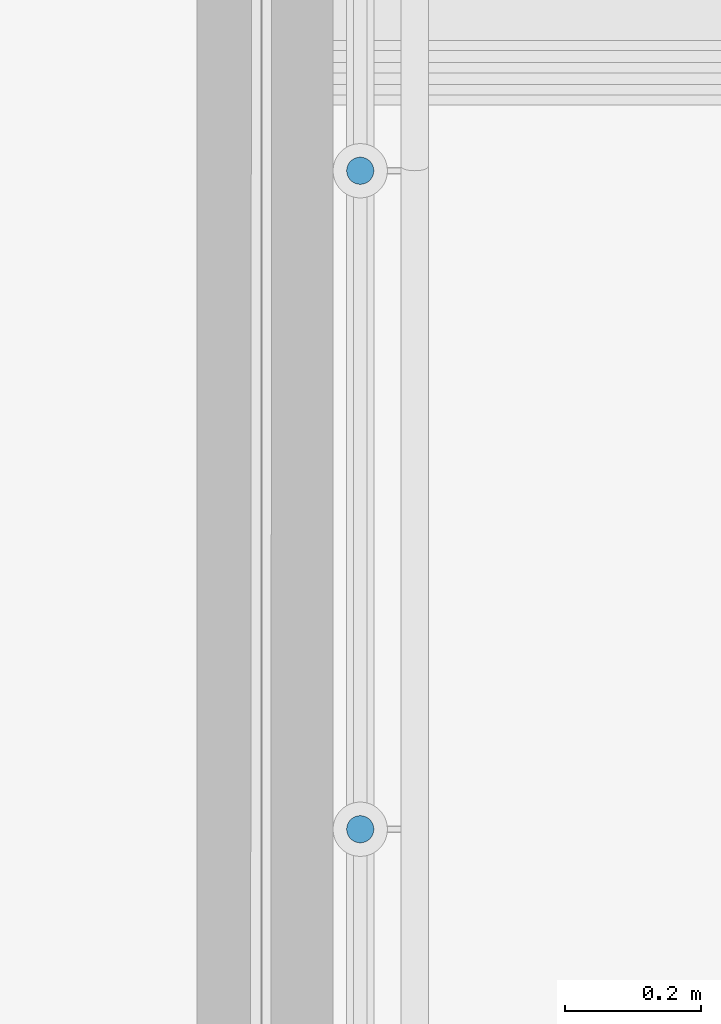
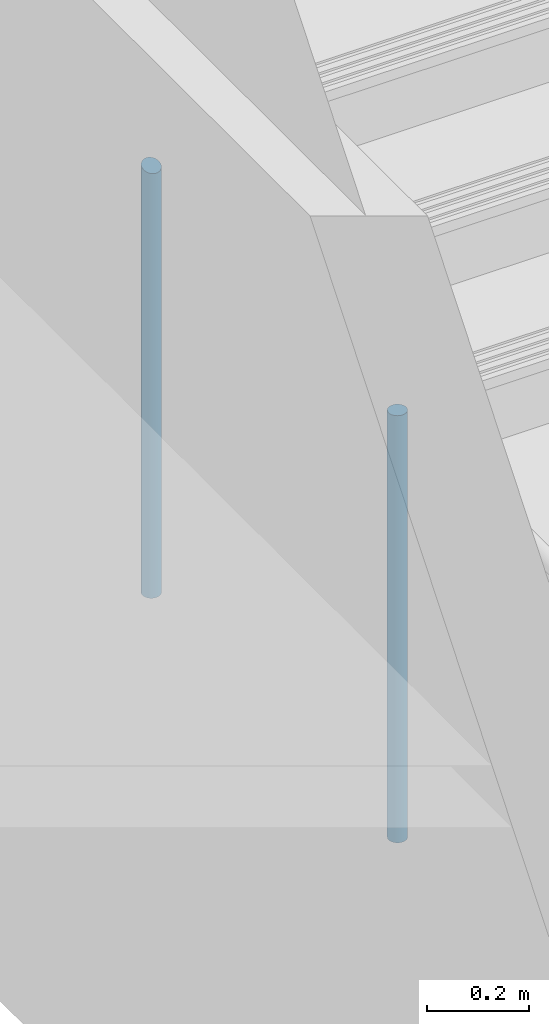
# One storey, part 61 of 237: 2 building element parts, 1 element without a shape of its own.
"""IFC2X3 building model written with IfcOpenShell, lengths in millimetres."""

from ifc_helpers import new_model, entity, si_unit, converted_unit, derived_unit, money_unit, direction, frame, origin_with_axes, place, context, subcontext, project, spatial, faceted_brep, material, type_object, element, aggregate, save


model = new_model("IFC2X3")

# Units and contexts
model_context = context("Model", 3, precision=0.01, world=origin_with_axes(), true_north=direction((0.0, 1.0)))
body_context = subcontext(model_context, "Body", "Model", "MODEL_VIEW")
ifc_project = project(units=[si_unit("LENGTHUNIT", "METRE", prefix="MILLI"), si_unit("AREAUNIT", "SQUARE_METRE"), si_unit("VOLUMEUNIT", "CUBIC_METRE"), converted_unit("PLANEANGLEUNIT", "DEGREE", entity("IfcPlaneAngleMeasure", 0.0174532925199), si_unit("PLANEANGLEUNIT", "RADIAN"), dimensions=[0, 0, 0, 0, 0, 0, 0]), money_unit("USD"), converted_unit("TIMEUNIT", "Year", entity("IfcTimeMeasure", 31556926.0), si_unit("TIMEUNIT", "SECOND"), dimensions=[0, 0, 1, 0, 0, 0, 0]), si_unit("MASSUNIT", "GRAM", prefix="KILO"), si_unit("THERMODYNAMICTEMPERATUREUNIT", "DEGREE_CELSIUS"), si_unit("LUMINOUSINTENSITYUNIT", "LUMEN"), si_unit("ENERGYUNIT", "JOULE", prefix="MEGA"), derived_unit("THERMALCONDUCTANCEUNIT", [(si_unit("POWERUNIT", "WATT"), 1), (si_unit("LENGTHUNIT", "METRE"), -1), (si_unit("THERMODYNAMICTEMPERATUREUNIT", "KELVIN"), -1)]), derived_unit("SPECIFICHEATCAPACITYUNIT", [(si_unit("ENERGYUNIT", "JOULE"), 1), (si_unit("MASSUNIT", "GRAM", prefix="KILO"), -1), (si_unit("THERMODYNAMICTEMPERATUREUNIT", "KELVIN"), -1)]), derived_unit("MASSDENSITYUNIT", [(si_unit("MASSUNIT", "GRAM", prefix="KILO"), 1), (si_unit("VOLUMEUNIT", "CUBIC_METRE"), -1)])], contexts=[model_context])

# Site, building, storey
site_placement = place(None, origin_with_axes())
site = spatial("IfcSite", under=ifc_project, at=site_placement, Name="Local", CompositionType="ELEMENT")
building_placement = place(site_placement, origin_with_axes())
building = spatial("IfcBuilding", under=site, at=building_placement, Name="Construção", CompositionType="ELEMENT")
storey_placement = place(building_placement, origin_with_axes())
storey = spatial("IfcBuildingStorey", under=building, at=storey_placement, Name="Pavimento Térreo", CompositionType="ELEMENT", Elevation=0.0)

# Railing, building element parts
railing_type = type_object("IfcRailingType", Name="Tipo de Guarda-Corpo", PredefinedType="NOTDEFINED")
railing_placement = place(storey_placement, frame((77071.0413397, 23732.4143775, -4865.39060156), z_axis=(0.0, 0.0, 1.0), x_axis=(1.0, 0.0, 0.0)))
railing = element("IfcRailing", 1, at=railing_placement, inside=storey, type_object=railing_type, Name="Guarda-Corpo - 001", PredefinedType="NOTDEFINED")
ifc_material = material(Name="Aço - Inoxidável")
building_element_part_1_placement = place(railing_placement, origin_with_axes())
building_element_part_1 = element("IfcBuildingElementPart", 2, at=building_element_part_1_placement, material=ifc_material, Name="Aço - Inoxidável", context=body_context, shape_type="Brep", body=[
    faceted_brep([(1718.22200306, -1381.16009709, 525.0), (1717.91815812, -1384.63306065, 525.0), (1717.91815812, -1384.63306065, 1550.0), (1718.22200306, -1381.16009709, 1551.12154911), (1718.22200306, -1388.1060242, 525.0), (1719.12430571, -1377.79265778, 525.0), (1720.59765005, -1374.63306065, 525.0), (1722.59726926, -1371.77730845, 525.0), (1725.06240593, -1369.31217178, 525.0), (1727.91815812, -1367.31255257, 525.0), (1731.07775526, -1365.83920823, 525.0), (1734.44519457, -1364.93690559, 525.0), (1737.91815812, -1364.63306065, 525.0), (1741.39112168, -1364.93690559, 525.0), (1744.75856099, -1365.83920823, 525.0), (1747.91815812, -1367.31255257, 525.0), (1750.77391032, -1369.31217178, 525.0), (1753.23904699, -1371.77730845, 525.0), (1755.2386662, -1374.63306065, 525.0), (1756.71201054, -1377.79265778, 525.0), (1757.61431318, -1381.16009709, 525.0), (1757.91815812, -1384.63306065, 525.0), (1757.61431318, -1388.1060242, 525.0), (1756.71201054, -1391.47346351, 525.0), (1755.2386662, -1394.63306065, 525.0), (1753.23904699, -1397.48881284, 525.0), (1750.77391032, -1399.95394951, 525.0), (1747.91815812, -1401.95356872, 525.0), (1744.75856099, -1403.42691306, 525.0), (1741.39112168, -1404.32921571, 525.0), (1737.91815812, -1404.63306065, 525.0), (1734.44519457, -1404.32921571, 525.0), (1731.07775526, -1403.42691306, 525.0), (1727.91815812, -1401.95356872, 525.0), (1725.06240593, -1399.95394951, 525.0), (1722.59726926, -1397.48881284, 525.0), (1720.59765005, -1394.63306065, 525.0), (1719.12430571, -1391.47346351, 525.0), (1718.22200306, -1388.1060242, 1548.87845089), (1741.39112168, -1364.93690559, 1556.36062108), (1737.91815812, -1364.63306065, 1556.45874392), (1734.44519457, -1364.93690559, 1556.36062108), (1731.07775526, -1365.83920823, 1556.069234), (1727.91815812, -1367.31255257, 1555.59343631), (1725.06240593, -1369.31217178, 1554.94768489), (1722.59726926, -1371.77730845, 1554.15160056), (1720.59765005, -1374.63306065, 1553.22937196), (1719.12430571, -1377.79265778, 1552.20902052), (1719.12430571, -1391.47346351, 1547.79097948), (1720.59765005, -1394.63306065, 1546.77062804), (1722.59726926, -1397.48881284, 1545.84839944), (1725.06240593, -1399.95394951, 1545.05231511), (1727.91815812, -1401.95356872, 1544.40656369), (1731.07775526, -1403.42691306, 1543.930766), (1734.44519457, -1404.32921571, 1543.63937892), (1737.91815812, -1404.63306065, 1543.54125608), (1741.39112168, -1404.32921571, 1543.63937892), (1744.75856099, -1403.42691306, 1543.930766), (1747.91815812, -1401.95356872, 1544.40656369), (1750.77391032, -1399.95394951, 1545.05231511), (1753.23904699, -1397.48881284, 1545.84839944), (1755.2386662, -1394.63306065, 1546.77062804), (1756.71201054, -1391.47346351, 1547.79097948), (1757.61431318, -1388.1060242, 1548.87845089), (1757.91815812, -1384.63306065, 1550.0), (1757.61431318, -1381.16009709, 1551.12154911), (1756.71201054, -1377.79265778, 1552.20902052), (1755.2386662, -1374.63306065, 1553.22937196), (1753.23904699, -1371.77730845, 1554.15160056), (1750.77391032, -1369.31217178, 1554.94768489), (1747.91815812, -1367.31255257, 1555.59343631), (1744.75856099, -1365.83920823, 1556.069234)], [[[0, 1, 2, 3]], [[4, 1, 0, 5, 6, 7, 8, 9, 10, 11, 12, 13, 14, 15, 16, 17, 18, 19, 20, 21, 22, 23, 24, 25, 26, 27, 28, 29, 30, 31, 32, 33, 34, 35, 36, 37]], [[1, 4, 38, 2]], [[39, 40, 41, 42, 43, 44, 45, 46, 47, 3, 2, 38, 48, 49, 50, 51, 52, 53, 54, 55, 56, 57, 58, 59, 60, 61, 62, 63, 64, 65, 66, 67, 68, 69, 70, 71]], [[5, 0, 3, 47]], [[6, 5, 47, 46]], [[7, 6, 46, 45]], [[8, 7, 45, 44]], [[9, 8, 44, 43]], [[10, 9, 43, 42]], [[11, 10, 42, 41]], [[12, 11, 41, 40]], [[13, 12, 40, 39]], [[14, 13, 39, 71]], [[15, 14, 71, 70]], [[16, 15, 70, 69]], [[17, 16, 69, 68]], [[18, 17, 68, 67]], [[19, 18, 67, 66]], [[20, 19, 66, 65]], [[21, 20, 65, 64]], [[22, 21, 64, 63]], [[23, 22, 63, 62]], [[24, 23, 62, 61]], [[25, 24, 61, 60]], [[26, 25, 60, 59]], [[27, 26, 59, 58]], [[28, 27, 58, 57]], [[29, 28, 57, 56]], [[30, 29, 56, 55]], [[31, 30, 55, 54]], [[32, 31, 54, 53]], [[33, 32, 53, 52]], [[34, 33, 52, 51]], [[35, 34, 51, 50]], [[36, 35, 50, 49]], [[37, 36, 49, 48]], [[4, 37, 48, 38]]]),
])
building_element_part_2_placement = place(railing_placement, origin_with_axes())
building_element_part_2 = element("IfcBuildingElementPart", 3, at=building_element_part_2_placement, material=ifc_material, Name="Aço - Inoxidável", context=body_context, shape_type="Brep", body=[
    faceted_brep([(1718.22200202, -2348.8412002, 525.0), (1717.91815707, -2352.31416376, 525.0), (1717.91815707, -2352.31416376, 1550.0), (1718.22200202, -2348.8412002, 1550.0), (1718.22200201, -2355.78712731, 525.0), (1719.12430466, -2345.47376089, 525.0), (1720.59764901, -2342.31416376, 525.0), (1722.59726822, -2339.45841157, 525.0), (1725.06240489, -2336.9932749, 525.0), (1727.91815709, -2334.99365569, 525.0), (1731.07775423, -2333.52031136, 525.0), (1734.44519354, -2332.61800872, 525.0), (1737.91815709, -2332.31416378, 525.0), (1741.39112065, -2332.61800872, 525.0), (1744.75855996, -2333.52031137, 525.0), (1747.91815709, -2334.99365571, 525.0), (1750.77390928, -2336.99327493, 525.0), (1753.23904595, -2339.4584116, 525.0), (1755.23866516, -2342.3141638, 525.0), (1756.71200949, -2345.47376093, 525.0), (1757.61431214, -2348.84120025, 525.0), (1757.91815707, -2352.3141638, 525.0), (1757.61431213, -2355.78712735, 525.0), (1756.71200948, -2359.15456667, 525.0), (1755.23866514, -2362.3141638, 525.0), (1753.23904592, -2365.16991599, 525.0), (1750.77390925, -2367.63505266, 525.0), (1747.91815705, -2369.63467187, 525.0), (1744.75855992, -2371.1080162, 525.0), (1741.3911206, -2372.01031884, 525.0), (1737.91815705, -2372.31416378, 525.0), (1734.4451935, -2372.01031884, 525.0), (1731.07775418, -2371.10801619, 525.0), (1727.91815705, -2369.63467184, 525.0), (1725.06240486, -2367.63505263, 525.0), (1722.5972682, -2365.16991596, 525.0), (1720.59764899, -2362.31416376, 525.0), (1719.12430465, -2359.15456663, 525.0), (1718.22200201, -2355.78712731, 1550.0), (1741.39112065, -2332.61800872, 1550.0), (1737.91815709, -2332.31416378, 1550.0), (1734.44519354, -2332.61800872, 1550.0), (1731.07775423, -2333.52031136, 1550.0), (1727.91815709, -2334.99365569, 1550.0), (1725.06240489, -2336.9932749, 1550.0), (1722.59726822, -2339.45841157, 1550.0), (1720.59764901, -2342.31416376, 1550.0), (1719.12430466, -2345.47376089, 1550.0), (1719.12430465, -2359.15456663, 1550.0), (1720.59764899, -2362.31416376, 1550.0), (1722.5972682, -2365.16991596, 1550.0), (1725.06240486, -2367.63505263, 1550.0), (1727.91815705, -2369.63467184, 1550.0), (1731.07775418, -2371.10801619, 1550.0), (1734.4451935, -2372.01031884, 1550.0), (1737.91815705, -2372.31416378, 1550.0), (1741.3911206, -2372.01031884, 1550.0), (1744.75855992, -2371.1080162, 1550.0), (1747.91815705, -2369.63467187, 1550.0), (1750.77390925, -2367.63505266, 1550.0), (1753.23904592, -2365.16991599, 1550.0), (1755.23866514, -2362.3141638, 1550.0), (1756.71200948, -2359.15456667, 1550.0), (1757.61431213, -2355.78712735, 1550.0), (1757.91815707, -2352.3141638, 1550.0), (1757.61431214, -2348.84120025, 1550.0), (1756.71200949, -2345.47376093, 1550.0), (1755.23866516, -2342.3141638, 1550.0), (1753.23904595, -2339.4584116, 1550.0), (1750.77390928, -2336.99327493, 1550.0), (1747.91815709, -2334.99365571, 1550.0), (1744.75855996, -2333.52031137, 1550.0)], [[[0, 1, 2, 3]], [[4, 1, 0, 5, 6, 7, 8, 9, 10, 11, 12, 13, 14, 15, 16, 17, 18, 19, 20, 21, 22, 23, 24, 25, 26, 27, 28, 29, 30, 31, 32, 33, 34, 35, 36, 37]], [[1, 4, 38, 2]], [[39, 40, 41, 42, 43, 44, 45, 46, 47, 3, 2, 38, 48, 49, 50, 51, 52, 53, 54, 55, 56, 57, 58, 59, 60, 61, 62, 63, 64, 65, 66, 67, 68, 69, 70, 71]], [[5, 0, 3, 47]], [[6, 5, 47, 46]], [[7, 6, 46, 45]], [[8, 7, 45, 44]], [[9, 8, 44, 43]], [[10, 9, 43, 42]], [[11, 10, 42, 41]], [[12, 11, 41, 40]], [[13, 12, 40, 39]], [[14, 13, 39, 71]], [[15, 14, 71, 70]], [[16, 15, 70, 69]], [[17, 16, 69, 68]], [[18, 17, 68, 67]], [[19, 18, 67, 66]], [[20, 19, 66, 65]], [[21, 20, 65, 64]], [[22, 21, 64, 63]], [[23, 22, 63, 62]], [[24, 23, 62, 61]], [[25, 24, 61, 60]], [[26, 25, 60, 59]], [[27, 26, 59, 58]], [[28, 27, 58, 57]], [[29, 28, 57, 56]], [[30, 29, 56, 55]], [[31, 30, 55, 54]], [[32, 31, 54, 53]], [[33, 32, 53, 52]], [[34, 33, 52, 51]], [[35, 34, 51, 50]], [[36, 35, 50, 49]], [[37, 36, 49, 48]], [[4, 37, 48, 38]]]),
])
aggregate(railing, [building_element_part_1, building_element_part_2])

save(model, "model.ifc")
